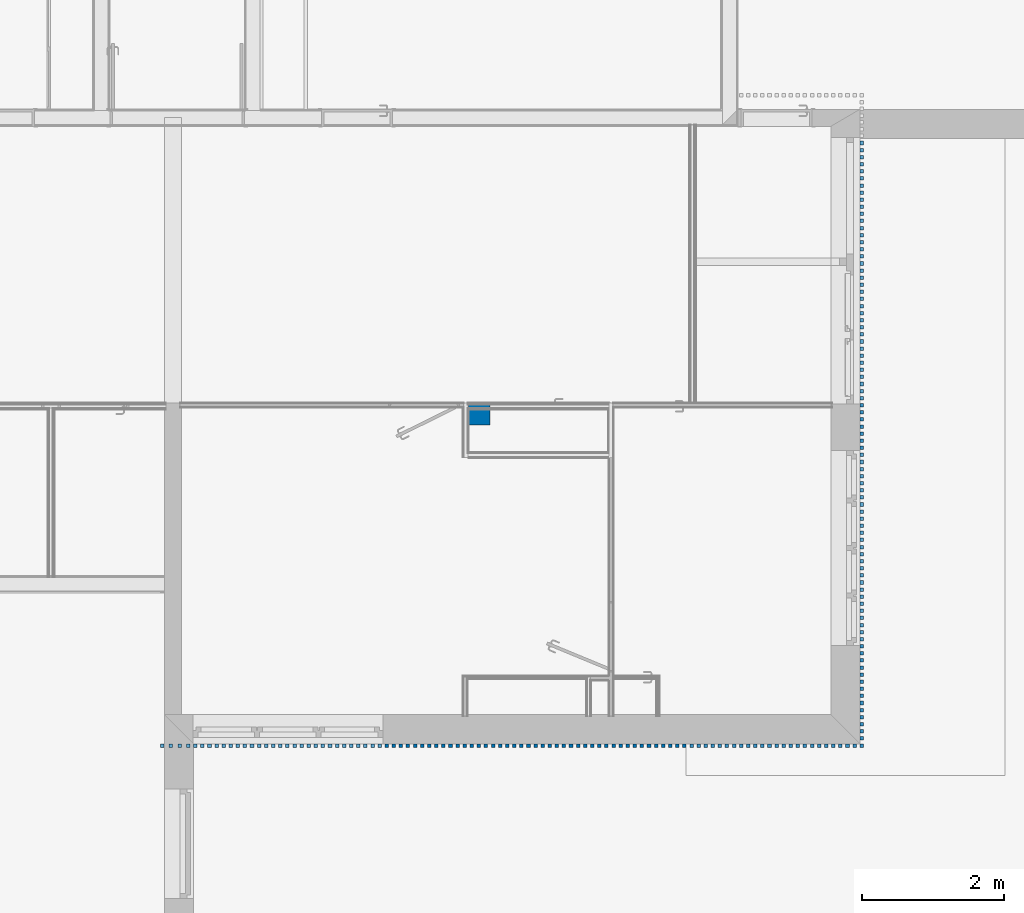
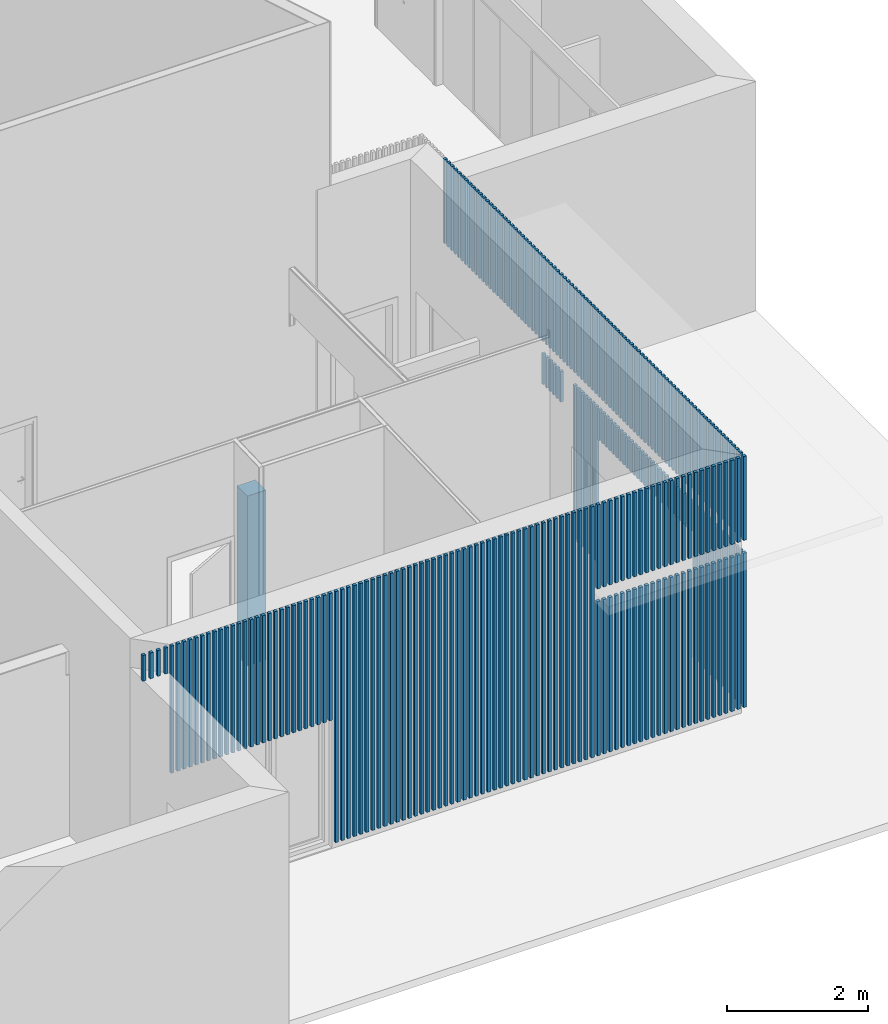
# One storey, part 1 of 34: 264 columns.
"""IFC2X3 building model written with IfcOpenShell, lengths in metres."""

from ifc_helpers import new_model, entity, si_unit, converted_unit, derived_unit, money_unit, direction, frame, origin_with_axes, origin_2d_with_axis, place, context, subcontext, project, spatial, rectangle, extrude, material, type_object, element, save


model = new_model("IFC2X3")

# Units and contexts
model_context = context("Model", 3, precision=1e-05, world=origin_with_axes(), true_north=direction((0.0, 1.0)))
body_context = subcontext(model_context, "Body", "Model", "MODEL_VIEW")
ifc_project = project(units=[si_unit("LENGTHUNIT", "METRE"), si_unit("AREAUNIT", "SQUARE_METRE"), si_unit("VOLUMEUNIT", "CUBIC_METRE"), converted_unit("PLANEANGLEUNIT", "DEGREE", entity("IfcPlaneAngleMeasure", 0.0174532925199), si_unit("PLANEANGLEUNIT", "RADIAN"), dimensions=[0, 0, 0, 0, 0, 0, 0]), money_unit("CHF"), converted_unit("TIMEUNIT", "Year", entity("IfcTimeMeasure", 31556926.0), si_unit("TIMEUNIT", "SECOND"), dimensions=[0, 0, 1, 0, 0, 0, 0]), si_unit("MASSUNIT", "GRAM", prefix="KILO"), si_unit("THERMODYNAMICTEMPERATUREUNIT", "DEGREE_CELSIUS"), si_unit("LUMINOUSINTENSITYUNIT", "LUMEN"), si_unit("ENERGYUNIT", "JOULE", prefix="MEGA"), derived_unit("THERMALCONDUCTANCEUNIT", [(si_unit("POWERUNIT", "WATT"), 1), (si_unit("LENGTHUNIT", "METRE"), -1), (si_unit("THERMODYNAMICTEMPERATUREUNIT", "KELVIN"), -1)]), derived_unit("SPECIFICHEATCAPACITYUNIT", [(si_unit("ENERGYUNIT", "JOULE"), 1), (si_unit("MASSUNIT", "GRAM", prefix="KILO"), -1), (si_unit("THERMODYNAMICTEMPERATUREUNIT", "KELVIN"), -1)]), derived_unit("MASSDENSITYUNIT", [(si_unit("MASSUNIT", "GRAM", prefix="KILO"), 1), (si_unit("VOLUMEUNIT", "CUBIC_METRE"), -1)])], contexts=[model_context])

# Site, building, storey
site_placement = place(None, origin_with_axes())
site = spatial("IfcSite", under=ifc_project, at=site_placement, Name="Site", CompositionType="ELEMENT")
building_placement = place(site_placement, origin_with_axes())
building = spatial("IfcBuilding", under=site, at=building_placement, Name="Bâtiment", CompositionType="ELEMENT")
storey_placement = place(building_placement, origin_with_axes())
storey = spatial("IfcBuildingStorey", under=building, at=storey_placement, Name="Rez-de-chaussée", CompositionType="ELEMENT", Elevation=0.0)

# Columns
ifc_material = material(Name="GEN - Structurel")
column_type_1 = type_object("IfcColumnType", Name="GEN - Structurel 300 x 300", PredefinedType="COLUMN")
column_1_placement = place(storey_placement, frame((28.6694697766, 10.8171256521, 0.0), z_axis=(0.0, 0.0, 1.0), x_axis=(1.0, 0.0, 0.0)))
element("IfcColumn", 1, at=column_1_placement, inside=storey, type_object=column_type_1, material=ifc_material, Name="POTEAU-001", ObjectType="COLUMN", context=body_context, shape_type="SweptSolid", body=[
    extrude(rectangle(XDim=0.3, YDim=0.3, at=origin_2d_with_axis()), origin_with_axes(), (0.0, 0.0, 1.0), 2.95),
])
column_type_2 = type_object("IfcColumnType", Name="GEN - Structurel 50 x 50", PredefinedType="COLUMN")
for number, where, z_axis, x_axis, name in (
    (2, (34.0644697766, 11.8451256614, 2.25), (0.0, 0.0, 1.0), (1.0, 0.0, 0.0), "POTEAU-002"),
    (3, (34.0644697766, 11.7451256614, 2.25), (0.0, 0.0, 1.0), (1.0, 0.0, 0.0), "POTEAU-002"),
    (4, (34.0644697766, 11.6451256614, 2.25), (0.0, 0.0, 1.0), (1.0, 0.0, 0.0), "POTEAU-002"),
    (5, (34.0644697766, 11.5451256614, 2.25), (0.0, 0.0, 1.0), (1.0, 0.0, 0.0), "POTEAU-002"),
    (6, (34.0644697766, 11.4451256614, 2.25), (0.0, 0.0, 1.0), (1.0, 0.0, 0.0), "POTEAU-002"),
    (7, (34.0644697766, 11.3451256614, 2.25), (0.0, 0.0, 1.0), (1.0, 0.0, 0.0), "POTEAU-002"),
):
    element("IfcColumn", number, at=place(storey_placement, frame(where, z_axis=z_axis, x_axis=x_axis)), inside=storey, type_object=column_type_2, material=ifc_material, Name=name, ObjectType="COLUMN", context=body_context, shape_type="SweptSolid", body=[
        extrude(rectangle(XDim=0.05, YDim=0.05, at=origin_2d_with_axis()), origin_with_axes(), (0.0, 0.0, 1.0), 0.53),
    ])
for number, where, z_axis, x_axis, name in (
    (8, (34.0644697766, 10.9451256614, 0.1), (0.0, 0.0, 1.0), (1.0, 0.0, 0.0), "POTEAU-002"),
    (9, (34.0644697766, 10.8451256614, 0.1), (0.0, 0.0, 1.0), (1.0, 0.0, 0.0), "POTEAU-002"),
    (10, (34.0644697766, 10.7451256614, 0.1), (0.0, 0.0, 1.0), (1.0, 0.0, 0.0), "POTEAU-002"),
    (11, (34.0644697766, 10.6451256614, 0.1), (0.0, 0.0, 1.0), (1.0, 0.0, 0.0), "POTEAU-002"),
    (12, (34.0644697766, 10.5451256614, 0.1), (0.0, 0.0, 1.0), (1.0, 0.0, 0.0), "POTEAU-002"),
):
    element("IfcColumn", number, at=place(storey_placement, frame(where, z_axis=z_axis, x_axis=x_axis)), inside=storey, type_object=column_type_2, material=ifc_material, Name=name, ObjectType="COLUMN", context=body_context, shape_type="SweptSolid", body=[
        extrude(rectangle(XDim=0.05, YDim=0.05, at=origin_2d_with_axis()), origin_with_axes(), (0.0, 0.0, 1.0), 2.68),
    ])
column_2_placement = place(storey_placement, frame((31.5644697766, 6.14512566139, 0.1), z_axis=(0.0, 0.0, 1.0), x_axis=(1.0, 0.0, 0.0)))
element("IfcColumn", 13, at=column_2_placement, inside=storey, type_object=column_type_2, material=ifc_material, Name="POTEAU-002", ObjectType="COLUMN", context=body_context, shape_type="SweptSolid", body=[
    extrude(rectangle(XDim=0.05, YDim=0.05, at=origin_2d_with_axis()), origin_with_axes(), (0.0, 0.0, 1.0), 4.36),
])
for number, where, z_axis, x_axis, name in (
    (14, (31.6644697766, 6.14512566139, 0.1), (0.0, 0.0, 1.0), (1.0, 0.0, 0.0), "POTEAU-002"),
    (15, (31.7644697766, 6.14512566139, 0.1), (0.0, 0.0, 1.0), (1.0, 0.0, 0.0), "POTEAU-002"),
    (16, (31.8644697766, 6.14512566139, 0.1), (0.0, 0.0, 1.0), (1.0, 0.0, 0.0), "POTEAU-002"),
    (17, (31.9644697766, 6.14512566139, 0.1), (0.0, 0.0, 1.0), (1.0, 0.0, 0.0), "POTEAU-002"),
    (18, (32.0644697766, 6.14512566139, 0.1), (0.0, 0.0, 1.0), (1.0, 0.0, 0.0), "POTEAU-002"),
    (19, (32.1644697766, 6.14512566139, 0.1), (0.0, 0.0, 1.0), (1.0, 0.0, 0.0), "POTEAU-002"),
    (20, (32.2644697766, 6.14512566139, 0.1), (0.0, 0.0, 1.0), (1.0, 0.0, 0.0), "POTEAU-002"),
    (21, (32.3644697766, 6.14512566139, 0.1), (0.0, 0.0, 1.0), (1.0, 0.0, 0.0), "POTEAU-002"),
    (22, (32.4644697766, 6.14512566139, 0.1), (0.0, 0.0, 1.0), (1.0, 0.0, 0.0), "POTEAU-002"),
    (23, (32.5644697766, 6.14512566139, 0.1), (0.0, 0.0, 1.0), (1.0, 0.0, 0.0), "POTEAU-002"),
    (24, (32.6644697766, 6.14512566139, 0.1), (0.0, 0.0, 1.0), (1.0, 0.0, 0.0), "POTEAU-002"),
    (25, (32.7644697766, 6.14512566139, 0.1), (0.0, 0.0, 1.0), (1.0, 0.0, 0.0), "POTEAU-002"),
    (26, (32.8644697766, 6.14512566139, 0.1), (0.0, 0.0, 1.0), (1.0, 0.0, 0.0), "POTEAU-002"),
    (27, (32.9644697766, 6.14512566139, 0.1), (0.0, 0.0, 1.0), (1.0, 0.0, 0.0), "POTEAU-002"),
    (28, (33.0644697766, 6.14512566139, 0.1), (0.0, 0.0, 1.0), (1.0, 0.0, 0.0), "POTEAU-002"),
    (29, (33.1644697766, 6.14512566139, 0.1), (0.0, 0.0, 1.0), (1.0, 0.0, 0.0), "POTEAU-002"),
    (30, (33.2644697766, 6.14512566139, 0.1), (0.0, 0.0, 1.0), (1.0, 0.0, 0.0), "POTEAU-002"),
    (31, (33.3644697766, 6.14512566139, 0.1), (0.0, 0.0, 1.0), (1.0, 0.0, 0.0), "POTEAU-002"),
    (32, (33.4644697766, 6.14512566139, 0.1), (0.0, 0.0, 1.0), (1.0, 0.0, 0.0), "POTEAU-002"),
    (33, (33.5644697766, 6.14512566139, 0.1), (0.0, 0.0, 1.0), (1.0, 0.0, 0.0), "POTEAU-002"),
    (34, (33.6644697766, 6.14512566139, 0.1), (0.0, 0.0, 1.0), (1.0, 0.0, 0.0), "POTEAU-002"),
    (35, (33.7644697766, 6.14512566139, 0.1), (0.0, 0.0, 1.0), (1.0, 0.0, 0.0), "POTEAU-002"),
    (36, (33.8644697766, 6.14512566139, 0.1), (0.0, 0.0, 1.0), (1.0, 0.0, 0.0), "POTEAU-002"),
    (37, (33.9644697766, 6.14512566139, 0.1), (0.0, 0.0, 1.0), (1.0, 0.0, 0.0), "POTEAU-002"),
    (38, (34.0644697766, 6.14512566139, 0.1), (0.0, 0.0, 1.0), (1.0, 0.0, 0.0), "POTEAU-002"),
    (39, (34.0644697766, 6.24512566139, 0.1), (0.0, 0.0, 1.0), (1.0, 0.0, 0.0), "POTEAU-002"),
    (40, (34.0644697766, 6.34512566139, 0.1), (0.0, 0.0, 1.0), (1.0, 0.0, 0.0), "POTEAU-002"),
    (41, (34.0644697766, 6.44512566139, 0.1), (0.0, 0.0, 1.0), (1.0, 0.0, 0.0), "POTEAU-002"),
    (42, (34.0644697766, 6.54512566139, 0.1), (0.0, 0.0, 1.0), (1.0, 0.0, 0.0), "POTEAU-002"),
    (43, (34.0644697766, 6.64512566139, 0.1), (0.0, 0.0, 1.0), (1.0, 0.0, 0.0), "POTEAU-002"),
    (44, (34.0644697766, 6.74512566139, 0.1), (0.0, 0.0, 1.0), (1.0, 0.0, 0.0), "POTEAU-002"),
    (45, (34.0644697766, 6.84512566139, 0.1), (0.0, 0.0, 1.0), (1.0, 0.0, 0.0), "POTEAU-002"),
    (46, (34.0644697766, 6.94512566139, 0.1), (0.0, 0.0, 1.0), (1.0, 0.0, 0.0), "POTEAU-002"),
    (47, (34.0644697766, 7.04512566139, 0.1), (0.0, 0.0, 1.0), (1.0, 0.0, 0.0), "POTEAU-002"),
    (48, (34.0644697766, 7.14512566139, 0.1), (0.0, 0.0, 1.0), (1.0, 0.0, 0.0), "POTEAU-002"),
    (49, (34.0644697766, 7.24512566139, 0.1), (0.0, 0.0, 1.0), (1.0, 0.0, 0.0), "POTEAU-002"),
    (50, (34.0644697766, 7.34512566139, 0.1), (0.0, 0.0, 1.0), (1.0, 0.0, 0.0), "POTEAU-002"),
    (51, (34.0644697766, 7.44512566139, 0.1), (0.0, 0.0, 1.0), (1.0, 0.0, 0.0), "POTEAU-002"),
    (52, (34.0644697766, 7.54512566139, 0.1), (0.0, 0.0, 1.0), (1.0, 0.0, 0.0), "POTEAU-002"),
):
    element("IfcColumn", number, at=place(storey_placement, frame(where, z_axis=z_axis, x_axis=x_axis)), inside=storey, type_object=column_type_2, material=ifc_material, Name=name, ObjectType="COLUMN", context=body_context, shape_type="SweptSolid", body=[
        extrude(rectangle(XDim=0.05, YDim=0.05, at=origin_2d_with_axis()), origin_with_axes(), (0.0, 0.0, 1.0), 2.68),
    ])
for number, where, z_axis, x_axis, name in (
    (53, (34.0644697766, 7.64512566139, 2.25), (0.0, 0.0, 1.0), (1.0, 0.0, 0.0), "POTEAU-002"),
    (54, (34.0644697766, 7.74512566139, 2.25), (0.0, 0.0, 1.0), (1.0, 0.0, 0.0), "POTEAU-002"),
    (55, (34.0644697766, 7.84512566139, 2.25), (0.0, 0.0, 1.0), (1.0, 0.0, 0.0), "POTEAU-002"),
    (56, (34.0644697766, 7.94512566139, 2.25), (0.0, 0.0, 1.0), (1.0, 0.0, 0.0), "POTEAU-002"),
    (57, (34.0644697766, 8.04512566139, 2.25), (0.0, 0.0, 1.0), (1.0, 0.0, 0.0), "POTEAU-002"),
    (58, (34.0644697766, 8.14512566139, 2.25), (0.0, 0.0, 1.0), (1.0, 0.0, 0.0), "POTEAU-002"),
    (59, (34.0644697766, 8.24512566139, 2.25), (0.0, 0.0, 1.0), (1.0, 0.0, 0.0), "POTEAU-002"),
    (60, (34.0644697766, 8.34512566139, 2.25), (0.0, 0.0, 1.0), (1.0, 0.0, 0.0), "POTEAU-002"),
    (61, (34.0644697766, 8.44512566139, 2.25), (0.0, 0.0, 1.0), (1.0, 0.0, 0.0), "POTEAU-002"),
    (62, (34.0644697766, 8.54512566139, 2.25), (0.0, 0.0, 1.0), (1.0, 0.0, 0.0), "POTEAU-002"),
    (63, (34.0644697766, 8.64512566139, 2.25), (0.0, 0.0, 1.0), (1.0, 0.0, 0.0), "POTEAU-002"),
    (64, (34.0644697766, 8.74512566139, 2.25), (0.0, 0.0, 1.0), (1.0, 0.0, 0.0), "POTEAU-002"),
    (65, (34.0644697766, 8.84512566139, 2.25), (0.0, 0.0, 1.0), (1.0, 0.0, 0.0), "POTEAU-002"),
    (66, (34.0644697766, 8.94512566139, 2.25), (0.0, 0.0, 1.0), (1.0, 0.0, 0.0), "POTEAU-002"),
    (67, (34.0644697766, 9.04512566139, 2.25), (0.0, 0.0, 1.0), (1.0, 0.0, 0.0), "POTEAU-002"),
    (68, (34.0644697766, 9.14512566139, 2.25), (0.0, 0.0, 1.0), (1.0, 0.0, 0.0), "POTEAU-002"),
    (69, (34.0644697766, 9.24512566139, 2.25), (0.0, 0.0, 1.0), (1.0, 0.0, 0.0), "POTEAU-002"),
    (70, (34.0644697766, 9.34512566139, 2.25), (0.0, 0.0, 1.0), (1.0, 0.0, 0.0), "POTEAU-002"),
    (71, (34.0644697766, 9.44512566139, 2.25), (0.0, 0.0, 1.0), (1.0, 0.0, 0.0), "POTEAU-002"),
    (72, (34.0644697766, 9.54512566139, 2.25), (0.0, 0.0, 1.0), (1.0, 0.0, 0.0), "POTEAU-002"),
    (73, (34.0644697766, 9.64512566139, 2.25), (0.0, 0.0, 1.0), (1.0, 0.0, 0.0), "POTEAU-002"),
    (74, (34.0644697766, 9.74512566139, 2.25), (0.0, 0.0, 1.0), (1.0, 0.0, 0.0), "POTEAU-002"),
    (75, (34.0644697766, 9.84512566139, 2.25), (0.0, 0.0, 1.0), (1.0, 0.0, 0.0), "POTEAU-002"),
    (76, (34.0644697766, 9.94512566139, 2.25), (0.0, 0.0, 1.0), (1.0, 0.0, 0.0), "POTEAU-002"),
    (77, (34.0644697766, 10.0451256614, 2.25), (0.0, 0.0, 1.0), (1.0, 0.0, 0.0), "POTEAU-002"),
    (78, (34.0644697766, 10.1451256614, 2.25), (0.0, 0.0, 1.0), (1.0, 0.0, 0.0), "POTEAU-002"),
    (79, (34.0644697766, 10.2451256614, 2.25), (0.0, 0.0, 1.0), (1.0, 0.0, 0.0), "POTEAU-002"),
):
    element("IfcColumn", number, at=place(storey_placement, frame(where, z_axis=z_axis, x_axis=x_axis)), inside=storey, type_object=column_type_2, material=ifc_material, Name=name, ObjectType="COLUMN", context=body_context, shape_type="SweptSolid", body=[
        extrude(rectangle(XDim=0.05, YDim=0.05, at=origin_2d_with_axis()), origin_with_axes(), (0.0, 0.0, 1.0), 0.53),
    ])
for number, where, z_axis, x_axis, name in (
    (80, (34.0644697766, 10.3451256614, 0.1), (0.0, 0.0, 1.0), (1.0, 0.0, 0.0), "POTEAU-002"),
    (81, (34.0644697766, 10.4451256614, 0.1), (0.0, 0.0, 1.0), (1.0, 0.0, 0.0), "POTEAU-002"),
):
    element("IfcColumn", number, at=place(storey_placement, frame(where, z_axis=z_axis, x_axis=x_axis)), inside=storey, type_object=column_type_2, material=ifc_material, Name=name, ObjectType="COLUMN", context=body_context, shape_type="SweptSolid", body=[
        extrude(rectangle(XDim=0.05, YDim=0.05, at=origin_2d_with_axis()), origin_with_axes(), (0.0, 0.0, 1.0), 2.68),
    ])
for number, where, z_axis, x_axis, name in (
    (82, (31.4644697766, 6.14512566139, 0.1), (0.0, 0.0, 1.0), (1.0, 0.0, 0.0), "POTEAU-002"),
    (83, (31.3644697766, 6.14512566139, 0.1), (0.0, 0.0, 1.0), (1.0, 0.0, 0.0), "POTEAU-002"),
    (84, (31.2644697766, 6.14512566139, 0.1), (0.0, 0.0, 1.0), (1.0, 0.0, 0.0), "POTEAU-002"),
    (85, (31.1644697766, 6.14512566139, 0.1), (0.0, 0.0, 1.0), (1.0, 0.0, 0.0), "POTEAU-002"),
    (86, (31.0644697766, 6.14512566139, 0.1), (0.0, 0.0, 1.0), (1.0, 0.0, 0.0), "POTEAU-002"),
    (87, (30.9644697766, 6.14512566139, 0.1), (0.0, 0.0, 1.0), (1.0, 0.0, 0.0), "POTEAU-002"),
    (88, (30.8644697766, 6.14512566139, 0.1), (0.0, 0.0, 1.0), (1.0, 0.0, 0.0), "POTEAU-002"),
    (89, (30.7644697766, 6.14512566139, 0.1), (0.0, 0.0, 1.0), (1.0, 0.0, 0.0), "POTEAU-002"),
    (90, (30.6644697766, 6.14512566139, 0.1), (0.0, 0.0, 1.0), (1.0, 0.0, 0.0), "POTEAU-002"),
    (91, (30.5644697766, 6.14512566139, 0.1), (0.0, 0.0, 1.0), (1.0, 0.0, 0.0), "POTEAU-002"),
    (92, (30.4644697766, 6.14512566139, 0.1), (0.0, 0.0, 1.0), (1.0, 0.0, 0.0), "POTEAU-002"),
    (93, (30.3644697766, 6.14512566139, 0.1), (0.0, 0.0, 1.0), (1.0, 0.0, 0.0), "POTEAU-002"),
    (94, (30.2644697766, 6.14512566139, 0.1), (0.0, 0.0, 1.0), (1.0, 0.0, 0.0), "POTEAU-002"),
    (95, (30.1644697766, 6.14512566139, 0.1), (0.0, 0.0, 1.0), (1.0, 0.0, 0.0), "POTEAU-002"),
    (96, (30.0644697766, 6.14512566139, 0.1), (0.0, 0.0, 1.0), (1.0, 0.0, 0.0), "POTEAU-002"),
    (97, (29.9644697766, 6.14512566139, 0.1), (0.0, 0.0, 1.0), (1.0, 0.0, 0.0), "POTEAU-002"),
    (98, (29.8644697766, 6.14512566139, 0.1), (0.0, 0.0, 1.0), (1.0, 0.0, 0.0), "POTEAU-002"),
    (99, (29.7644697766, 6.14512566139, 0.1), (0.0, 0.0, 1.0), (1.0, 0.0, 0.0), "POTEAU-002"),
    (100, (29.6644697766, 6.14512566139, 0.1), (0.0, 0.0, 1.0), (1.0, 0.0, 0.0), "POTEAU-002"),
    (101, (29.5644697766, 6.14512566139, 0.1), (0.0, 0.0, 1.0), (1.0, 0.0, 0.0), "POTEAU-002"),
    (102, (29.4644697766, 6.14512566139, 0.1), (0.0, 0.0, 1.0), (1.0, 0.0, 0.0), "POTEAU-002"),
    (103, (29.3644697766, 6.14512566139, 0.1), (0.0, 0.0, 1.0), (1.0, 0.0, 0.0), "POTEAU-002"),
    (104, (29.2644697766, 6.14512566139, 0.1), (0.0, 0.0, 1.0), (1.0, 0.0, 0.0), "POTEAU-002"),
    (105, (29.1644697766, 6.14512566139, 0.1), (0.0, 0.0, 1.0), (1.0, 0.0, 0.0), "POTEAU-002"),
    (106, (29.0644697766, 6.14512566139, 0.1), (0.0, 0.0, 1.0), (1.0, 0.0, 0.0), "POTEAU-002"),
    (107, (28.9644697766, 6.14512566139, 0.1), (0.0, 0.0, 1.0), (1.0, 0.0, 0.0), "POTEAU-002"),
    (108, (28.8644697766, 6.14512566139, 0.1), (0.0, 0.0, 1.0), (1.0, 0.0, 0.0), "POTEAU-002"),
    (109, (28.7644697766, 6.14512566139, 0.1), (0.0, 0.0, 1.0), (1.0, 0.0, 0.0), "POTEAU-002"),
    (110, (28.6644697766, 6.14512566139, 0.1), (0.0, 0.0, 1.0), (1.0, 0.0, 0.0), "POTEAU-002"),
    (111, (28.5644697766, 6.14512566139, 0.1), (0.0, 0.0, 1.0), (1.0, 0.0, 0.0), "POTEAU-002"),
    (112, (28.4644697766, 6.14512566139, 0.1), (0.0, 0.0, 1.0), (1.0, 0.0, 0.0), "POTEAU-002"),
    (113, (28.3644697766, 6.14512566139, 0.1), (0.0, 0.0, 1.0), (1.0, 0.0, 0.0), "POTEAU-002"),
    (114, (28.2644697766, 6.14512566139, 0.1), (0.0, 0.0, 1.0), (1.0, 0.0, 0.0), "POTEAU-002"),
    (115, (28.1644697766, 6.14512566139, 0.1), (0.0, 0.0, 1.0), (1.0, 0.0, 0.0), "POTEAU-002"),
    (116, (28.0644697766, 6.14512566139, 0.1), (0.0, 0.0, 1.0), (1.0, 0.0, 0.0), "POTEAU-002"),
    (117, (27.9644697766, 6.14512566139, 0.1), (0.0, 0.0, 1.0), (1.0, 0.0, 0.0), "POTEAU-002"),
    (118, (27.8644697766, 6.14512566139, 0.1), (0.0, 0.0, 1.0), (1.0, 0.0, 0.0), "POTEAU-002"),
    (119, (27.7644697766, 6.14512566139, 0.1), (0.0, 0.0, 1.0), (1.0, 0.0, 0.0), "POTEAU-002"),
    (120, (27.6644697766, 6.14512566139, 0.1), (0.0, 0.0, 1.0), (1.0, 0.0, 0.0), "POTEAU-002"),
    (121, (27.5644697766, 6.14512566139, 0.1), (0.0, 0.0, 1.0), (1.0, 0.0, 0.0), "POTEAU-002"),
    (122, (27.4644697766, 6.14512566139, 0.1), (0.0, 0.0, 1.0), (1.0, 0.0, 0.0), "POTEAU-002"),
    (123, (27.3644697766, 6.14512566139, 0.1), (0.0, 0.0, 1.0), (1.0, 0.0, 0.0), "POTEAU-002"),
):
    element("IfcColumn", number, at=place(storey_placement, frame(where, z_axis=z_axis, x_axis=x_axis)), inside=storey, type_object=column_type_2, material=ifc_material, Name=name, ObjectType="COLUMN", context=body_context, shape_type="SweptSolid", body=[
        extrude(rectangle(XDim=0.05, YDim=0.05, at=origin_2d_with_axis()), origin_with_axes(), (0.0, 0.0, 1.0), 4.36),
    ])
for number, where, z_axis, x_axis, name in (
    (124, (27.2644697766, 6.14512566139, 2.25), (0.0, 0.0, 1.0), (1.0, 0.0, 0.0), "POTEAU-002"),
    (125, (27.1644697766, 6.14512566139, 2.25), (0.0, 0.0, 1.0), (1.0, 0.0, 0.0), "POTEAU-002"),
    (126, (27.0644697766, 6.14512566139, 2.25), (0.0, 0.0, 1.0), (1.0, 0.0, 0.0), "POTEAU-002"),
    (127, (26.9644697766, 6.14512566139, 2.25), (0.0, 0.0, 1.0), (1.0, 0.0, 0.0), "POTEAU-002"),
    (128, (26.8644697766, 6.14512566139, 2.25), (0.0, 0.0, 1.0), (1.0, 0.0, 0.0), "POTEAU-002"),
    (129, (26.7644697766, 6.14512566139, 2.25), (0.0, 0.0, 1.0), (1.0, 0.0, 0.0), "POTEAU-002"),
    (130, (26.6644697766, 6.14512566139, 2.25), (0.0, 0.0, 1.0), (1.0, 0.0, 0.0), "POTEAU-002"),
    (131, (26.5644697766, 6.14512566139, 2.25), (0.0, 0.0, 1.0), (1.0, 0.0, 0.0), "POTEAU-002"),
    (132, (26.4644697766, 6.14512566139, 2.25), (0.0, 0.0, 1.0), (1.0, 0.0, 0.0), "POTEAU-002"),
    (133, (26.3644697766, 6.14512566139, 2.25), (0.0, 0.0, 1.0), (1.0, 0.0, 0.0), "POTEAU-002"),
    (134, (26.2644697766, 6.14512566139, 2.25), (0.0, 0.0, 1.0), (1.0, 0.0, 0.0), "POTEAU-002"),
    (135, (26.1644697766, 6.14512566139, 2.25), (0.0, 0.0, 1.0), (1.0, 0.0, 0.0), "POTEAU-002"),
    (136, (26.0644697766, 6.14512566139, 2.25), (0.0, 0.0, 1.0), (1.0, 0.0, 0.0), "POTEAU-002"),
    (137, (25.9644697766, 6.14512566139, 2.25), (0.0, 0.0, 1.0), (1.0, 0.0, 0.0), "POTEAU-002"),
    (138, (25.8644697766, 6.14512566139, 2.25), (0.0, 0.0, 1.0), (1.0, 0.0, 0.0), "POTEAU-002"),
    (139, (25.7644697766, 6.14512566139, 2.25), (0.0, 0.0, 1.0), (1.0, 0.0, 0.0), "POTEAU-002"),
    (140, (25.6644697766, 6.14512566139, 2.25), (0.0, 0.0, 1.0), (1.0, 0.0, 0.0), "POTEAU-002"),
    (141, (25.5644697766, 6.14512566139, 2.25), (0.0, 0.0, 1.0), (1.0, 0.0, 0.0), "POTEAU-002"),
    (142, (25.4644697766, 6.14512566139, 2.25), (0.0, 0.0, 1.0), (1.0, 0.0, 0.0), "POTEAU-002"),
    (143, (25.3644697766, 6.14512566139, 2.25), (0.0, 0.0, 1.0), (1.0, 0.0, 0.0), "POTEAU-002"),
    (144, (25.2644697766, 6.14512566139, 2.25), (0.0, 0.0, 1.0), (1.0, 0.0, 0.0), "POTEAU-002"),
    (145, (25.1644697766, 6.14512566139, 2.25), (0.0, 0.0, 1.0), (1.0, 0.0, 0.0), "POTEAU-002"),
    (146, (25.0644697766, 6.14512566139, 2.25), (0.0, 0.0, 1.0), (1.0, 0.0, 0.0), "POTEAU-002"),
    (147, (24.9644697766, 6.14512566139, 2.25), (0.0, 0.0, 1.0), (1.0, 0.0, 0.0), "POTEAU-002"),
    (148, (24.8644697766, 6.14512566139, 2.25), (0.0, 0.0, 1.0), (1.0, 0.0, 0.0), "POTEAU-002"),
    (149, (24.7644697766, 6.14512566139, 2.25), (0.0, 0.0, 1.0), (1.0, 0.0, 0.0), "POTEAU-002"),
    (150, (24.6644697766, 6.14512566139, 2.25), (0.0, 0.0, 1.0), (1.0, 0.0, 0.0), "POTEAU-002"),
):
    element("IfcColumn", number, at=place(storey_placement, frame(where, z_axis=z_axis, x_axis=x_axis)), inside=storey, type_object=column_type_2, material=ifc_material, Name=name, ObjectType="COLUMN", context=body_context, shape_type="SweptSolid", body=[
        extrude(rectangle(XDim=0.05, YDim=0.05, at=origin_2d_with_axis()), origin_with_axes(), (0.0, 0.0, 1.0), 2.21),
    ])
for number, where, z_axis, x_axis, name in (
    (151, (31.6644697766, 6.14512566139, 3.0), (0.0, 0.0, 1.0), (1.0, 0.0, 0.0), "POTEAU-002"),
    (152, (31.7644697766, 6.14512566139, 3.0), (0.0, 0.0, 1.0), (1.0, 0.0, 0.0), "POTEAU-002"),
    (153, (31.8644697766, 6.14512566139, 3.0), (0.0, 0.0, 1.0), (1.0, 0.0, 0.0), "POTEAU-002"),
    (154, (31.9644697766, 6.14512566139, 3.0), (0.0, 0.0, 1.0), (1.0, 0.0, 0.0), "POTEAU-002"),
    (155, (32.0644697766, 6.14512566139, 3.0), (0.0, 0.0, 1.0), (1.0, 0.0, 0.0), "POTEAU-002"),
    (156, (32.1644697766, 6.14512566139, 3.0), (0.0, 0.0, 1.0), (1.0, 0.0, 0.0), "POTEAU-002"),
    (157, (32.2644697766, 6.14512566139, 3.0), (0.0, 0.0, 1.0), (1.0, 0.0, 0.0), "POTEAU-002"),
    (158, (32.3644697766, 6.14512566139, 3.0), (0.0, 0.0, 1.0), (1.0, 0.0, 0.0), "POTEAU-002"),
    (159, (32.4644697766, 6.14512566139, 3.0), (0.0, 0.0, 1.0), (1.0, 0.0, 0.0), "POTEAU-002"),
    (160, (32.5644697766, 6.14512566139, 3.0), (0.0, 0.0, 1.0), (1.0, 0.0, 0.0), "POTEAU-002"),
    (161, (32.6644697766, 6.14512566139, 3.0), (0.0, 0.0, 1.0), (1.0, 0.0, 0.0), "POTEAU-002"),
    (162, (32.7644697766, 6.14512566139, 3.0), (0.0, 0.0, 1.0), (1.0, 0.0, 0.0), "POTEAU-002"),
    (163, (32.8644697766, 6.14512566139, 3.0), (0.0, 0.0, 1.0), (1.0, 0.0, 0.0), "POTEAU-002"),
    (164, (32.9644697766, 6.14512566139, 3.0), (0.0, 0.0, 1.0), (1.0, 0.0, 0.0), "POTEAU-002"),
    (165, (33.0644697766, 6.14512566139, 3.0), (0.0, 0.0, 1.0), (1.0, 0.0, 0.0), "POTEAU-002"),
    (166, (33.1644697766, 6.14512566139, 3.0), (0.0, 0.0, 1.0), (1.0, 0.0, 0.0), "POTEAU-002"),
    (167, (33.2644697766, 6.14512566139, 3.0), (0.0, 0.0, 1.0), (1.0, 0.0, 0.0), "POTEAU-002"),
    (168, (33.3644697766, 6.14512566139, 3.0), (0.0, 0.0, 1.0), (1.0, 0.0, 0.0), "POTEAU-002"),
    (169, (33.4644697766, 6.14512566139, 3.0), (0.0, 0.0, 1.0), (1.0, 0.0, 0.0), "POTEAU-002"),
    (170, (33.5644697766, 6.14512566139, 3.0), (0.0, 0.0, 1.0), (1.0, 0.0, 0.0), "POTEAU-002"),
    (171, (33.6644697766, 6.14512566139, 3.0), (0.0, 0.0, 1.0), (1.0, 0.0, 0.0), "POTEAU-002"),
    (172, (33.7644697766, 6.14512566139, 3.0), (0.0, 0.0, 1.0), (1.0, 0.0, 0.0), "POTEAU-002"),
    (173, (33.8644697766, 6.14512566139, 3.0), (0.0, 0.0, 1.0), (1.0, 0.0, 0.0), "POTEAU-002"),
    (174, (33.9644697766, 6.14512566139, 3.0), (0.0, 0.0, 1.0), (1.0, 0.0, 0.0), "POTEAU-002"),
    (175, (34.0644697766, 6.14512566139, 3.0), (0.0, 0.0, 1.0), (1.0, 0.0, 0.0), "POTEAU-002"),
    (176, (34.0644697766, 6.24512566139, 3.0), (0.0, 0.0, 1.0), (1.0, 0.0, 0.0), "POTEAU-002"),
    (177, (34.0644697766, 6.34512566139, 3.0), (0.0, 0.0, 1.0), (1.0, 0.0, 0.0), "POTEAU-002"),
    (178, (34.0644697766, 6.44512566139, 3.0), (0.0, 0.0, 1.0), (1.0, 0.0, 0.0), "POTEAU-002"),
    (179, (34.0644697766, 6.54512566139, 3.0), (0.0, 0.0, 1.0), (1.0, 0.0, 0.0), "POTEAU-002"),
    (180, (34.0644697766, 6.64512566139, 3.0), (0.0, 0.0, 1.0), (1.0, 0.0, 0.0), "POTEAU-002"),
    (181, (34.0644697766, 6.74512566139, 3.0), (0.0, 0.0, 1.0), (1.0, 0.0, 0.0), "POTEAU-002"),
    (182, (34.0644697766, 6.84512566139, 3.0), (0.0, 0.0, 1.0), (1.0, 0.0, 0.0), "POTEAU-002"),
    (183, (34.0644697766, 6.94512566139, 3.0), (0.0, 0.0, 1.0), (1.0, 0.0, 0.0), "POTEAU-002"),
    (184, (34.0644697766, 7.04512566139, 3.0), (0.0, 0.0, 1.0), (1.0, 0.0, 0.0), "POTEAU-002"),
    (185, (34.0644697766, 7.14512566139, 3.0), (0.0, 0.0, 1.0), (1.0, 0.0, 0.0), "POTEAU-002"),
    (186, (34.0644697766, 7.24512566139, 3.0), (0.0, 0.0, 1.0), (1.0, 0.0, 0.0), "POTEAU-002"),
    (187, (34.0644697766, 7.34512566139, 3.0), (0.0, 0.0, 1.0), (1.0, 0.0, 0.0), "POTEAU-002"),
    (188, (34.0644697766, 7.44512566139, 3.0), (0.0, 0.0, 1.0), (1.0, 0.0, 0.0), "POTEAU-002"),
    (189, (34.0644697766, 7.54512566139, 3.0), (0.0, 0.0, 1.0), (1.0, 0.0, 0.0), "POTEAU-002"),
    (190, (34.0644697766, 7.64512566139, 3.0), (0.0, 0.0, 1.0), (1.0, 0.0, 0.0), "POTEAU-002"),
    (191, (34.0644697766, 7.74512566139, 3.0), (0.0, 0.0, 1.0), (1.0, 0.0, 0.0), "POTEAU-002"),
    (192, (34.0644697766, 7.84512566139, 3.0), (0.0, 0.0, 1.0), (1.0, 0.0, 0.0), "POTEAU-002"),
    (193, (34.0644697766, 7.94512566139, 3.0), (0.0, 0.0, 1.0), (1.0, 0.0, 0.0), "POTEAU-002"),
    (194, (34.0644697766, 8.04512566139, 3.0), (0.0, 0.0, 1.0), (1.0, 0.0, 0.0), "POTEAU-002"),
    (195, (34.0644697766, 8.14512566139, 3.0), (0.0, 0.0, 1.0), (1.0, 0.0, 0.0), "POTEAU-002"),
    (196, (34.0644697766, 8.24512566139, 3.0), (0.0, 0.0, 1.0), (1.0, 0.0, 0.0), "POTEAU-002"),
    (197, (34.0644697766, 8.34512566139, 3.0), (0.0, 0.0, 1.0), (1.0, 0.0, 0.0), "POTEAU-002"),
    (198, (34.0644697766, 8.44512566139, 3.0), (0.0, 0.0, 1.0), (1.0, 0.0, 0.0), "POTEAU-002"),
    (199, (34.0644697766, 8.54512566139, 3.0), (0.0, 0.0, 1.0), (1.0, 0.0, 0.0), "POTEAU-002"),
    (200, (34.0644697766, 8.64512566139, 3.0), (0.0, 0.0, 1.0), (1.0, 0.0, 0.0), "POTEAU-002"),
    (201, (34.0644697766, 8.74512566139, 3.0), (0.0, 0.0, 1.0), (1.0, 0.0, 0.0), "POTEAU-002"),
    (202, (34.0644697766, 8.84512566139, 3.0), (0.0, 0.0, 1.0), (1.0, 0.0, 0.0), "POTEAU-002"),
    (203, (34.0644697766, 8.94512566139, 3.0), (0.0, 0.0, 1.0), (1.0, 0.0, 0.0), "POTEAU-002"),
    (204, (34.0644697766, 9.04512566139, 3.0), (0.0, 0.0, 1.0), (1.0, 0.0, 0.0), "POTEAU-002"),
    (205, (34.0644697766, 9.14512566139, 3.0), (0.0, 0.0, 1.0), (1.0, 0.0, 0.0), "POTEAU-002"),
    (206, (34.0644697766, 9.24512566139, 3.0), (0.0, 0.0, 1.0), (1.0, 0.0, 0.0), "POTEAU-002"),
    (207, (34.0644697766, 9.34512566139, 3.0), (0.0, 0.0, 1.0), (1.0, 0.0, 0.0), "POTEAU-002"),
    (208, (34.0644697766, 9.44512566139, 3.0), (0.0, 0.0, 1.0), (1.0, 0.0, 0.0), "POTEAU-002"),
    (209, (34.0644697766, 9.54512566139, 3.0), (0.0, 0.0, 1.0), (1.0, 0.0, 0.0), "POTEAU-002"),
    (210, (34.0644697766, 9.64512566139, 3.0), (0.0, 0.0, 1.0), (1.0, 0.0, 0.0), "POTEAU-002"),
    (211, (34.0644697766, 9.74512566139, 3.0), (0.0, 0.0, 1.0), (1.0, 0.0, 0.0), "POTEAU-002"),
    (212, (34.0644697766, 9.84512566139, 3.0), (0.0, 0.0, 1.0), (1.0, 0.0, 0.0), "POTEAU-002"),
    (213, (34.0644697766, 9.94512566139, 3.0), (0.0, 0.0, 1.0), (1.0, 0.0, 0.0), "POTEAU-002"),
    (214, (34.0644697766, 10.0451256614, 3.0), (0.0, 0.0, 1.0), (1.0, 0.0, 0.0), "POTEAU-002"),
    (215, (34.0644697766, 10.1451256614, 3.0), (0.0, 0.0, 1.0), (1.0, 0.0, 0.0), "POTEAU-002"),
    (216, (34.0644697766, 10.2451256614, 3.0), (0.0, 0.0, 1.0), (1.0, 0.0, 0.0), "POTEAU-002"),
    (217, (34.0644697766, 10.3451256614, 3.0), (0.0, 0.0, 1.0), (1.0, 0.0, 0.0), "POTEAU-002"),
    (218, (34.0644697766, 10.4451256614, 3.0), (0.0, 0.0, 1.0), (1.0, 0.0, 0.0), "POTEAU-002"),
    (219, (34.0644697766, 10.5451256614, 3.0), (0.0, 0.0, 1.0), (1.0, 0.0, 0.0), "POTEAU-002"),
    (220, (34.0644697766, 10.6451256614, 3.0), (0.0, 0.0, 1.0), (1.0, 0.0, 0.0), "POTEAU-002"),
    (221, (34.0644697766, 10.7451256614, 3.0), (0.0, 0.0, 1.0), (1.0, 0.0, 0.0), "POTEAU-002"),
    (222, (34.0644697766, 10.8451256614, 3.0), (0.0, 0.0, 1.0), (1.0, 0.0, 0.0), "POTEAU-002"),
    (223, (34.0644697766, 10.9451256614, 3.0), (0.0, 0.0, 1.0), (1.0, 0.0, 0.0), "POTEAU-002"),
    (224, (34.0644697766, 11.0451256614, 3.0), (0.0, 0.0, 1.0), (1.0, 0.0, 0.0), "POTEAU-002"),
    (225, (34.0644697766, 11.1451256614, 3.0), (0.0, 0.0, 1.0), (1.0, 0.0, 0.0), "POTEAU-002"),
    (226, (34.0644697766, 11.2451256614, 3.0), (0.0, 0.0, 1.0), (1.0, 0.0, 0.0), "POTEAU-002"),
    (227, (34.0644697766, 11.3451256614, 3.0), (0.0, 0.0, 1.0), (1.0, 0.0, 0.0), "POTEAU-002"),
    (228, (34.0644697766, 11.4451256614, 3.0), (0.0, 0.0, 1.0), (1.0, 0.0, 0.0), "POTEAU-002"),
    (229, (34.0644697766, 11.5451256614, 3.0), (0.0, 0.0, 1.0), (1.0, 0.0, 0.0), "POTEAU-002"),
    (230, (34.0644697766, 11.6451256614, 3.0), (0.0, 0.0, 1.0), (1.0, 0.0, 0.0), "POTEAU-002"),
    (231, (34.0644697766, 11.7451256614, 3.0), (0.0, 0.0, 1.0), (1.0, 0.0, 0.0), "POTEAU-002"),
    (232, (34.0644697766, 11.8451256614, 3.0), (0.0, 0.0, 1.0), (1.0, 0.0, 0.0), "POTEAU-002"),
    (233, (34.0644697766, 11.9451256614, 3.0), (0.0, 0.0, 1.0), (1.0, 0.0, 0.0), "POTEAU-002"),
    (234, (34.0644697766, 12.0451256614, 3.0), (0.0, 0.0, 1.0), (1.0, 0.0, 0.0), "POTEAU-002"),
    (235, (34.0644697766, 12.1451256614, 3.0), (0.0, 0.0, 1.0), (1.0, 0.0, 0.0), "POTEAU-002"),
    (236, (34.0644697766, 12.2451256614, 3.0), (0.0, 0.0, 1.0), (1.0, 0.0, 0.0), "POTEAU-002"),
    (237, (34.0644697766, 12.3451256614, 3.0), (0.0, 0.0, 1.0), (1.0, 0.0, 0.0), "POTEAU-002"),
    (238, (34.0644697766, 12.4451256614, 3.0), (0.0, 0.0, 1.0), (1.0, 0.0, 0.0), "POTEAU-002"),
    (239, (34.0644697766, 12.5451256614, 3.0), (0.0, 0.0, 1.0), (1.0, 0.0, 0.0), "POTEAU-002"),
    (240, (34.0644697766, 12.6451256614, 3.0), (0.0, 0.0, 1.0), (1.0, 0.0, 0.0), "POTEAU-002"),
    (241, (34.0644697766, 12.7451256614, 3.0), (0.0, 0.0, 1.0), (1.0, 0.0, 0.0), "POTEAU-002"),
    (242, (34.0644697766, 12.8451256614, 3.0), (0.0, 0.0, 1.0), (1.0, 0.0, 0.0), "POTEAU-002"),
    (243, (34.0644697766, 12.9451256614, 3.0), (0.0, 0.0, 1.0), (1.0, 0.0, 0.0), "POTEAU-002"),
    (244, (34.0644697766, 13.0451256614, 3.0), (0.0, 0.0, 1.0), (1.0, 0.0, 0.0), "POTEAU-002"),
    (245, (34.0644697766, 13.1451256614, 3.0), (0.0, 0.0, 1.0), (1.0, 0.0, 0.0), "POTEAU-002"),
    (246, (34.0644697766, 13.2451256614, 3.0), (0.0, 0.0, 1.0), (1.0, 0.0, 0.0), "POTEAU-002"),
    (247, (34.0644697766, 13.3451256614, 3.0), (0.0, 0.0, 1.0), (1.0, 0.0, 0.0), "POTEAU-002"),
    (248, (34.0644697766, 13.4451256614, 3.0), (0.0, 0.0, 1.0), (1.0, 0.0, 0.0), "POTEAU-002"),
    (249, (34.0644697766, 13.5451256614, 3.0), (0.0, 0.0, 1.0), (1.0, 0.0, 0.0), "POTEAU-002"),
    (250, (34.0644697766, 13.6451256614, 3.0), (0.0, 0.0, 1.0), (1.0, 0.0, 0.0), "POTEAU-002"),
    (251, (34.0644697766, 13.7451256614, 3.0), (0.0, 0.0, 1.0), (1.0, 0.0, 0.0), "POTEAU-002"),
    (252, (34.0644697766, 13.8451256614, 3.0), (0.0, 0.0, 1.0), (1.0, 0.0, 0.0), "POTEAU-002"),
    (253, (34.0644697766, 13.9451256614, 3.0), (0.0, 0.0, 1.0), (1.0, 0.0, 0.0), "POTEAU-002"),
    (254, (34.0644697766, 14.0451256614, 3.0), (0.0, 0.0, 1.0), (1.0, 0.0, 0.0), "POTEAU-002"),
    (255, (34.0644697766, 14.1451256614, 3.0), (0.0, 0.0, 1.0), (1.0, 0.0, 0.0), "POTEAU-002"),
    (256, (34.0644697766, 14.2451256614, 3.0), (0.0, 0.0, 1.0), (1.0, 0.0, 0.0), "POTEAU-002"),
    (257, (34.0644697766, 14.3451256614, 3.0), (0.0, 0.0, 1.0), (1.0, 0.0, 0.0), "POTEAU-002"),
    (258, (34.0644697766, 14.4451256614, 3.0), (0.0, 0.0, 1.0), (1.0, 0.0, 0.0), "POTEAU-002"),
    (259, (34.0644697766, 14.5451256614, 3.0), (0.0, 0.0, 1.0), (1.0, 0.0, 0.0), "POTEAU-002"),
    (260, (34.0644697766, 14.6451256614, 3.0), (0.0, 0.0, 1.0), (1.0, 0.0, 0.0), "POTEAU-002"),
):
    element("IfcColumn", number, at=place(storey_placement, frame(where, z_axis=z_axis, x_axis=x_axis)), inside=storey, type_object=column_type_2, material=ifc_material, Name=name, ObjectType="COLUMN", context=body_context, shape_type="SweptSolid", body=[
        extrude(rectangle(XDim=0.05, YDim=0.05, at=origin_2d_with_axis()), origin_with_axes(), (0.0, 0.0, 1.0), 1.46),
    ])
for number, where, z_axis, x_axis, name in (
    (261, (24.1994697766, 6.14512566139, 4.01), (0.0, 0.0, 1.0), (1.0, 0.0, 0.0), "POTEAU-002"),
    (262, (24.3211364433, 6.14512566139, 4.01), (0.0, 0.0, 1.0), (1.0, 0.0, 0.0), "POTEAU-002"),
    (263, (24.5644697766, 6.14512566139, 4.01), (0.0, 0.0, 1.0), (1.0, 0.0, 0.0), "POTEAU-002"),
    (264, (24.44280311, 6.14512566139, 4.01), (0.0, 0.0, 1.0), (1.0, 0.0, 0.0), "POTEAU-002"),
):
    element("IfcColumn", number, at=place(storey_placement, frame(where, z_axis=z_axis, x_axis=x_axis)), inside=storey, type_object=column_type_2, material=ifc_material, Name=name, ObjectType="COLUMN", context=body_context, shape_type="SweptSolid", body=[
        extrude(rectangle(XDim=0.05, YDim=0.05, at=origin_2d_with_axis()), origin_with_axes(), (0.0, 0.0, 1.0), 0.45),
    ])

save(model, "model.ifc")
